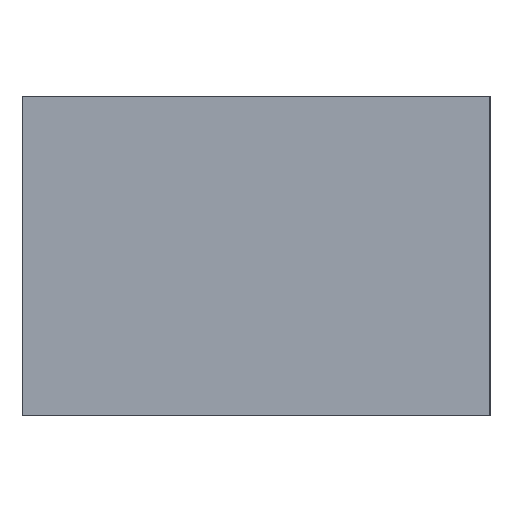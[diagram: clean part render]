
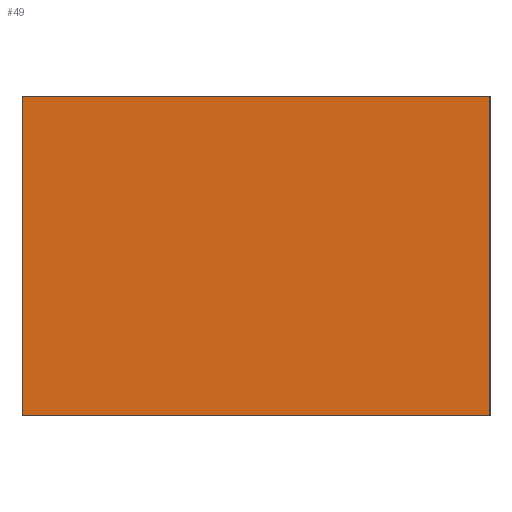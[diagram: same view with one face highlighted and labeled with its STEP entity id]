
A CAD part, left-side view. The second image highlights one B-rep face of the part: STEP entity #49.
In plain terms, the highlighted planar face has unit normal (-1, 0, 0).
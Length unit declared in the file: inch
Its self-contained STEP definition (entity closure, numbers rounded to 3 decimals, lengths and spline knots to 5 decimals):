
#7 = DIRECTION ( 'NONE',  ( 0., 1., 0. ) ) ;
#49 = ADVANCED_FACE ( 'NONE', ( #179 ), #280, .F. ) ;
#67 = DIRECTION ( 'NONE',  ( 0., -1., 0. ) ) ;
#75 = VECTOR ( 'NONE', #657, 39.37008 ) ;
#82 = EDGE_CURVE ( 'NONE', #572, #614, #233, .T. ) ;
#89 = VECTOR ( 'NONE', #582, 39.37008 ) ;
#90 = CARTESIAN_POINT ( 'NONE',  ( -4., 0., 0. ) ) ;
#93 = CARTESIAN_POINT ( 'NONE',  ( -4., 0., 1.5 ) ) ;
#154 = LINE ( 'NONE', #361, #89 ) ;
#178 = CARTESIAN_POINT ( 'NONE',  ( -4., 2.2, 1.5 ) ) ;
#179 = FACE_OUTER_BOUND ( 'NONE', #316, .T. ) ;
#202 = ORIENTED_EDGE ( 'NONE', *, *, #384, .F. ) ;
#215 = EDGE_CURVE ( 'NONE', #614, #529, #288, .T. ) ;
#233 = LINE ( 'NONE', #178, #75 ) ;
#259 = DIRECTION ( 'NONE',  ( 0., -1., 0. ) ) ;
#280 = PLANE ( 'NONE',  #659 ) ;
#288 = LINE ( 'NONE', #386, #688 ) ;
#314 = CARTESIAN_POINT ( 'NONE',  ( -4., 2.2, 0. ) ) ;
#316 = EDGE_LOOP ( 'NONE', ( #569, #202, #442, #370 ) ) ;
#361 = CARTESIAN_POINT ( 'NONE',  ( -4., 0., 1.5 ) ) ;
#370 = ORIENTED_EDGE ( 'NONE', *, *, #82, .T. ) ;
#384 = EDGE_CURVE ( 'NONE', #641, #529, #154, .T. ) ;
#386 = CARTESIAN_POINT ( 'NONE',  ( -4., 2.2, 0. ) ) ;
#428 = EDGE_CURVE ( 'NONE', #572, #641, #545, .T. ) ;
#442 = ORIENTED_EDGE ( 'NONE', *, *, #428, .F. ) ;
#494 = VECTOR ( 'NONE', #259, 39.37008 ) ;
#495 = CARTESIAN_POINT ( 'NONE',  ( -4., 2.2, 1.5 ) ) ;
#497 = CARTESIAN_POINT ( 'NONE',  ( -4., 2.2, 1.5 ) ) ;
#508 = DIRECTION ( 'NONE',  ( 1., 0., 0. ) ) ;
#529 = VERTEX_POINT ( 'NONE', #90 ) ;
#545 = LINE ( 'NONE', #495, #494 ) ;
#569 = ORIENTED_EDGE ( 'NONE', *, *, #215, .T. ) ;
#572 = VERTEX_POINT ( 'NONE', #687 ) ;
#582 = DIRECTION ( 'NONE',  ( 0., 0., -1. ) ) ;
#614 = VERTEX_POINT ( 'NONE', #314 ) ;
#641 = VERTEX_POINT ( 'NONE', #93 ) ;
#657 = DIRECTION ( 'NONE',  ( 0., 0., -1. ) ) ;
#659 = AXIS2_PLACEMENT_3D ( 'NONE', #497, #508, #7 ) ;
#687 = CARTESIAN_POINT ( 'NONE',  ( -4., 2.2, 1.5 ) ) ;
#688 = VECTOR ( 'NONE', #67, 39.37008 ) ;
